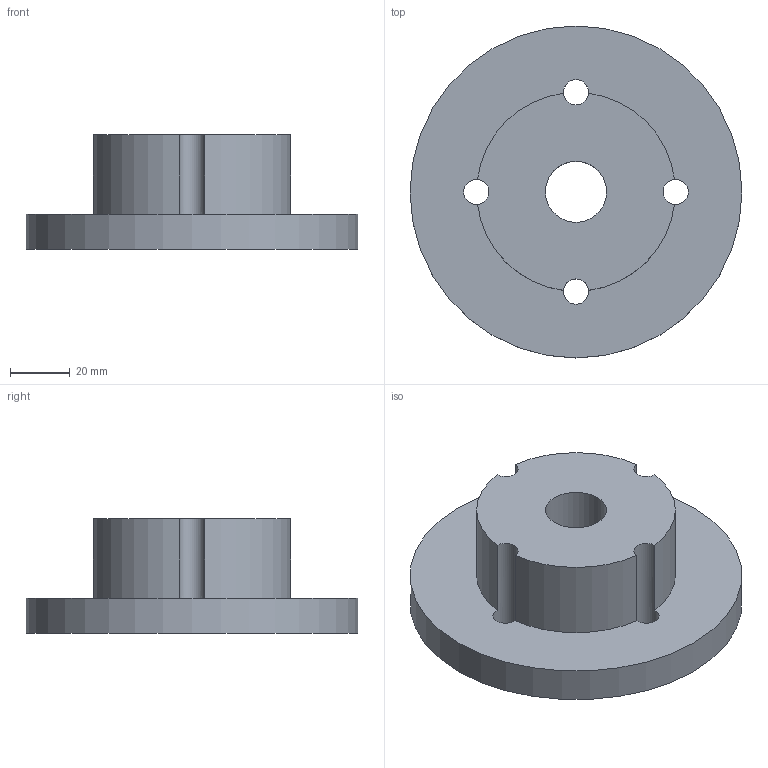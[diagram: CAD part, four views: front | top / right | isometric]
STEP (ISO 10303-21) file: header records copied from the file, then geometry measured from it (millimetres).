
FILE_DESCRIPTION(('Mechanical CAD reference from nasji.com'),'2;1');
FILE_NAME('NASJI.step','',(''),(''),'','NASJI distribution','');
FILE_SCHEMA(('AUTOMOTIVE_DESIGN { 1 0 10303 214 1 1 1 1 }'));
Length unit declared in the file: millimetre
Products named in the file (1): Open CASCADE STEP translator 7.8 215
Bounding box: 110.9 x 110.9 x 38.4 mm (x, y, z)
Volume: 187537.2 mm3; surface area: 31999 mm2
Topology: 1 solids, 1 shells, 13 faces, 42 edges, 28 vertices
Faces by surface type: cylinder 10, plane 3
Full cylindrical faces by diameter (mm): 8.4 x4, 20.4 x1, 110.9 x1
Entity records: 1092 total; most frequent: CARTESIAN_POINT 280, DIRECTION 150, ORIENTED_EDGE 84, PCURVE 84, DEFINITIONAL_REPRESENTATION 84, LINE 54, VECTOR 54, AXIS2_PLACEMENT_3D 42
